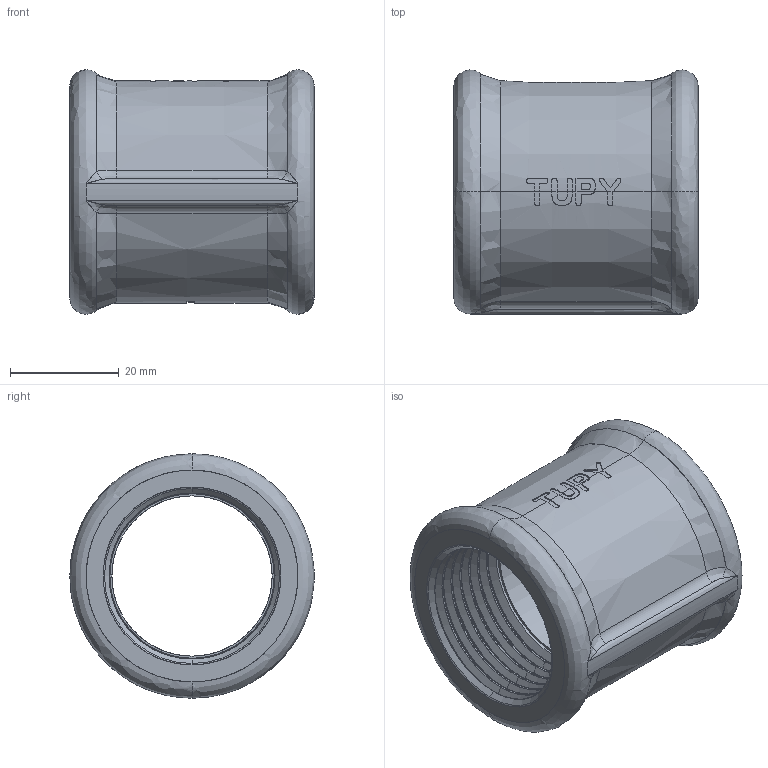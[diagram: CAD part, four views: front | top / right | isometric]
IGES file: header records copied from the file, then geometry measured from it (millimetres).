
Start section: SolidWorks IGES file using analytic representation for surfaces
Global section: file name: C:\Users\Joel Rosa\Desktop\Tubulação\12-36-OK\12-36-007.IGS; native system: SolidWorks 2011; preprocessor: SolidWorks 2011; author: Joel Rosa; date: 131216.201803; units: millimetre
Bounding box: 45 x 44.99 x 45 mm (x, y, z)
Surface area: 14499.4 mm2 (no closed solid volume)
Topology: 0 solids, 0 shells, 261 faces, 2340 edges, 2336 vertices
Faces by surface type: bspline 171, revolution 90
